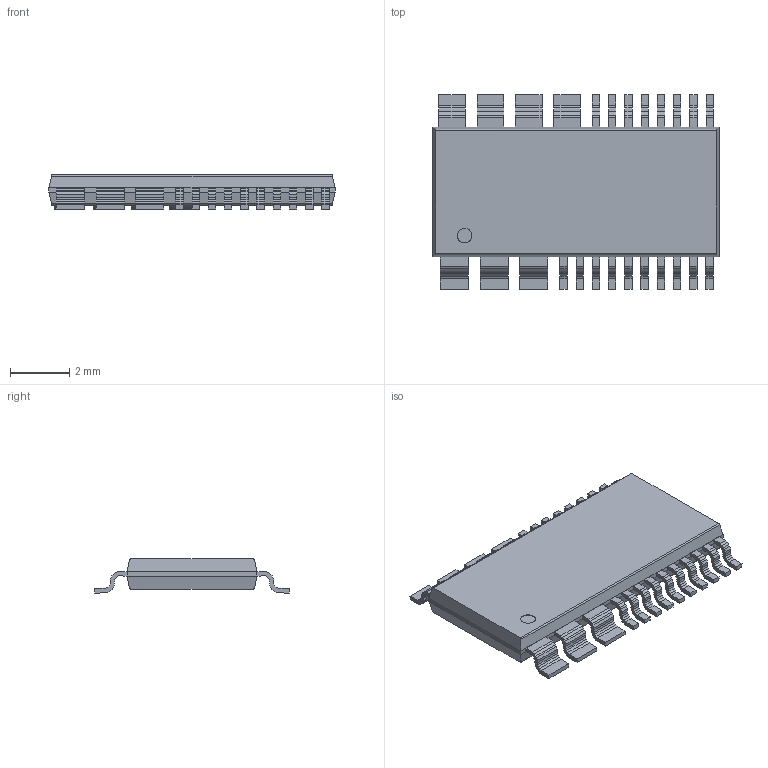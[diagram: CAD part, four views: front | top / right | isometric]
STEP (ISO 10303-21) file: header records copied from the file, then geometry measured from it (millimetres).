
FILE_DESCRIPTION(('Open CASCADE Model'),'2;1');
FILE_NAME('Open CASCADE Shape Model','2024-07-09T14:31:49',('Author'),( 'Open CASCADE'),'Open CASCADE STEP processor 6.5','Open CASCADE 6.5' ,'Unknown');
FILE_SCHEMA(('AUTOMOTIVE_DESIGN_CC2 { 1 2 10303 214 -1 1 5 4 }'));
Length unit declared in the file: millimetre
Products named in the file (721): Open CASCADE STEP translator 6.5 1; Open CASCADE STEP translator 6.5 1.1; Open CASCADE STEP translator 6.5 1.2; Open CASCADE STEP translator 6.5 1.3; Open CASCADE STEP translator 6.5 1.4; Open CASCADE STEP translator 6.5 1.5; Open CASCADE STEP translator 6.5 1.6; Open CASCADE STEP translator 6.5 1.7; Open CASCADE STEP translator 6.5 1.8; Open CASCADE STEP translator 6.5 1.9; Open CASCADE STEP translator 6.5 1.10; Open CASCADE STEP translator 6.5 1.11; Open CASCADE STEP translator 6.5 1.12; Open CASCADE STEP translator 6.5 1.13; Open CASCADE STEP translator 6.5 1.14; Open CASCADE STEP translator 6.5 1.15; Open CASCADE STEP translator 6.5 1.16; Open CASCADE STEP translator 6.5 1.17; Open CASCADE STEP translator 6.5 1.18; Open CASCADE STEP translator 6.5 1.19; Open CASCADE STEP translator 6.5 1.20; Open CASCADE STEP translator 6.5 1.21; Open CASCADE STEP translator 6.5 1.22; Open CASCADE STEP translator 6.5 1.23; Open CASCADE STEP translator 6.5 1.24; Open CASCADE STEP translator 6.5 1.25; Open CASCADE STEP translator 6.5 1.26; Open CASCADE STEP translator 6.5 1.27; Open CASCADE STEP translator 6.5 1.28; Open CASCADE STEP translator 6.5 1.29; Open CASCADE STEP translator 6.5 1.30; Open CASCADE STEP translator 6.5 1.31; Open CASCADE STEP translator 6.5 1.32; Open CASCADE STEP translator 6.5 1.33; Open CASCADE STEP translator 6.5 1.34; Open CASCADE STEP translator 6.5 1.35; Open CASCADE STEP translator 6.5 1.36; Open CASCADE STEP translator 6.5 1.37; Open CASCADE STEP translator 6.5 1.38; Open CASCADE STEP translator 6.5 1.39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
Assembly tree (720 placements, depth 2):
  Open CASCADE STEP translator 6.5 1
    Open CASCADE STEP translator 6.5 1.1
    Open CASCADE STEP translator 6.5 1.2
    Open CASCADE STEP translator 6.5 1.3
    Open CASCADE STEP translator 6.5 1.4
    Open CASCADE STEP translator 6.5 1.5
    Open CASCADE STEP translator 6.5 1.6
    Open CASCADE STEP translator 6.5 1.7
    Open CASCADE STEP translator 6.5 1.8
    Open CASCADE STEP translator 6.5 1.9
    Open CASCADE STEP translator 6.5 1.10
    Open CASCADE STEP translator 6.5 1.11
    Open CASCADE STEP translator 6.5 1.12
    Open CASCADE STEP translator 6.5 1.13
    Open CASCADE STEP translator 6.5 1.14
    Open CASCADE STEP translator 6.5 1.15
    Open CASCADE STEP translator 6.5 1.16
    Open CASCADE STEP translator 6.5 1.17
    Open CASCADE STEP translator 6.5 1.18
    Open CASCADE STEP translator 6.5 1.19
    Open CASCADE STEP translator 6.5 1.20
    Open CASCADE STEP translator 6.5 1.21
    Open CASCADE STEP translator 6.5 1.22
    Open CASCADE STEP translator 6.5 1.23
    Open CASCADE STEP translator 6.5 1.24
    Open CASCADE STEP translator 6.5 1.25
    Open CASCADE STEP translator 6.5 1.26
    Open CASCADE STEP translator 6.5 1.27
    Open CASCADE STEP translator 6.5 1.28
    Open CASCADE STEP translator 6.5 1.29
    Open CASCADE STEP translator 6.5 1.30
    Open CASCADE STEP translator 6.5 1.31
    Open CASCADE STEP translator 6.5 1.32
    Open CASCADE STEP translator 6.5 1.33
    Open CASCADE STEP translator 6.5 1.34
    Open CASCADE STEP translator 6.5 1.35
    Open CASCADE STEP translator 6.5 1.36
    Open CASCADE STEP translator 6.5 1.37
    Open CASCADE STEP translator 6.5 1.38
    Open CASCADE STEP translator 6.5 1.39
    Open CASCADE STEP translator 6.5 1.40
    Open CASCADE STEP translator 6.5 1.41
    Open CASCADE STEP translator 6.5 1.42
    Open CASCADE STEP translator 6.5 1.43
    Open CASCADE STEP translator 6.5 1.44
    Open CASCADE STEP translator 6.5 1.45
    Open CASCADE STEP translator 6.5 1.46
    Open CASCADE STEP translator 6.5 1.47
    Open CASCADE STEP translator 6.5 1.48
    Open CASCADE STEP translator 6.5 1.49
    Open CASCADE STEP translator 6.5 1.50
    Open CASCADE STEP translator 6.5 1.51
    Open CASCADE STEP translator 6.5 1.52
    Open CASCADE STEP translator 6.5 1.53
    Open CASCADE STEP translator 6.5 1.54
    Open CASCADE STEP translator 6.5 1.55
    Open CASCADE STEP translator 6.5 1.56
    Open CASCADE STEP translator 6.5 1.57
    Open CASCADE STEP translator 6.5 1.58
    Open CASCADE STEP translator 6.5 1.59
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Bounding box: 9.7 x 6.61 x 1.16 mm (x, y, z)
Surface area: 154.2 mm2 (no closed solid volume)
Topology: 0 solids, 720 shells, 720 faces, 3985 edges, 3984 vertices
Faces by surface type: plane 715, cylinder 5
Full cylindrical faces by diameter (mm): 0.491 x1
Entity records: 72186 total; most frequent: CARTESIAN_POINT 21573, B_SPLINE_CURVE_WITH_KNOTS 7939, ORIENTED_EDGE 3986, PCURVE 3986, DEFINITIONAL_REPRESENTATION 3986, EDGE_CURVE 3985, VERTEX_POINT 3984, SURFACE_CURVE 3984
